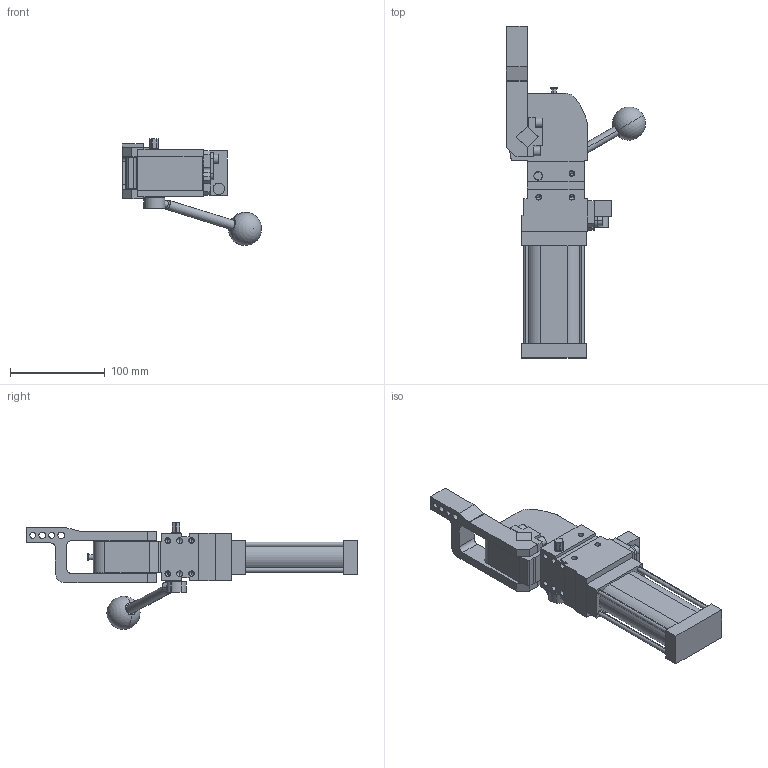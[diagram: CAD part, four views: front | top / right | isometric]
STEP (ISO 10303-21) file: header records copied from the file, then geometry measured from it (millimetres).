
FILE_DESCRIPTION (( 'STEP AP214' ), '1' );
FILE_NAME ('cplm40lbh2si1g_108.STEP', '2021-05-25T12:34:42', ( '' ), ( '' ), 'SwSTEP 2.0', 'SolidWorks 2021', '' );
FILE_SCHEMA (( 'AUTOMOTIVE_DESIGN' ));
Length unit declared in the file: millimetre
Products named in the file (6): cplm40lbh2si1g_108; leva_v2d_cpl40; meccanica_cplm40; piastra_blocchetto_cpl40; comando_manuale_cplm_40; blocchetto_VEP_0_cpl40
Assembly tree (5 placements, depth 2):
  cplm40lbh2si1g_108
    meccanica_cplm40
    blocchetto_VEP_0_cpl40
    piastra_blocchetto_cpl40
    leva_v2d_cpl40
    comando_manuale_cplm_40
Bounding box: 146.62 x 350 x 112.66 mm (x, y, z)
Volume: 801141.7 mm3; surface area: 125252.2 mm2
Topology: 6 solids, 6 shells, 485 faces, 1243 edges, 785 vertices
Faces by surface type: plane 283, cylinder 154, cone 46, sphere 2
Entity records: 16007 total; most frequent: CARTESIAN_POINT 2589, DIRECTION 2542, ORIENTED_EDGE 2392, EDGE_CURVE 1196, AXIS2_PLACEMENT_3D 857, LINE 828, VECTOR 828, VERTEX_POINT 782
